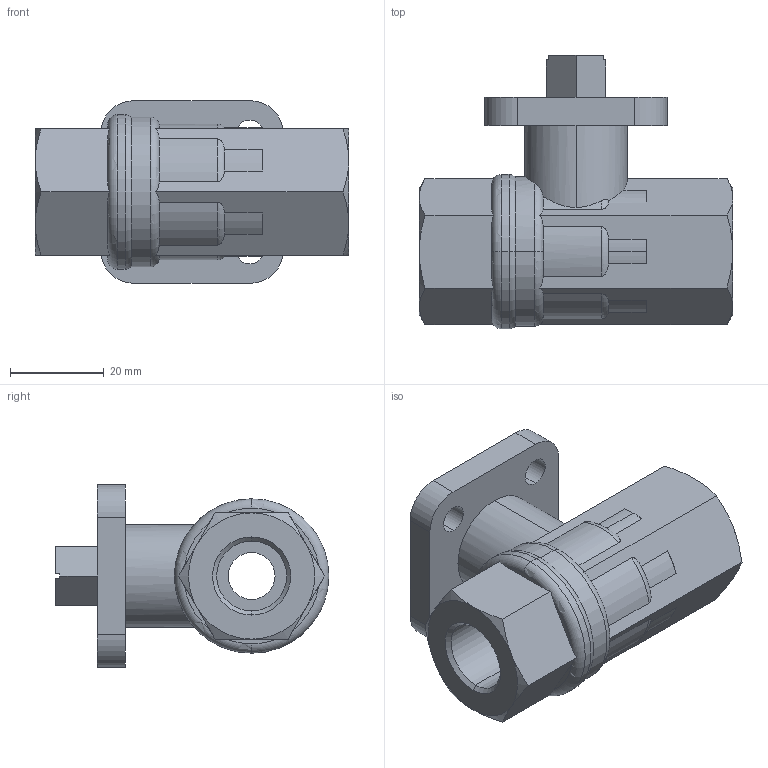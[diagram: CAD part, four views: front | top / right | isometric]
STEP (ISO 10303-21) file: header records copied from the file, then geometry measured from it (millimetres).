
FILE_DESCRIPTION (( 'STEP AP214' ), '1' );
FILE_NAME ('Ballvalve A25-DN10 G3_8.step', '2010-09-23T08:31:59', ( '' ), ( '' ), 'SwSTEP 2.0', 'SolidWorks 2010', '' );
FILE_SCHEMA (( 'AUTOMOTIVE_DESIGN' ));
Length unit declared in the file: millimetre
Products named in the file (1): Ballvalve A25-DN10 G3_8
Bounding box: 67 x 58.5 x 39 mm (x, y, z)
Volume: 49838.9 mm3; surface area: 14977.7 mm2
Topology: 1 solids, 1 shells, 114 faces, 295 edges, 188 vertices
Faces by surface type: plane 44, cylinder 40, cone 16, torus 14
Entity records: 3960 total; most frequent: CARTESIAN_POINT 1117, ORIENTED_EDGE 590, DIRECTION 568, EDGE_CURVE 295, AXIS2_PLACEMENT_3D 227, VERTEX_POINT 188, EDGE_LOOP 129, ADVANCED_FACE 114
